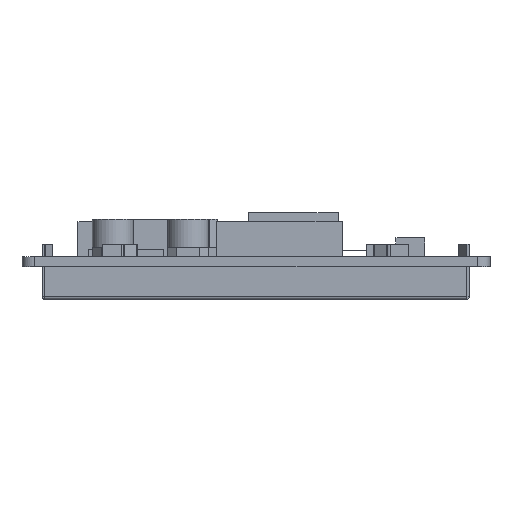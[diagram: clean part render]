
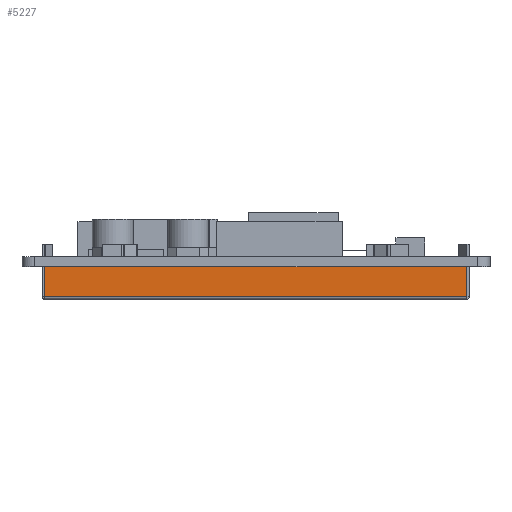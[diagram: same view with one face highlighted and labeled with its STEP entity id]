
A CAD part, left-side view. The second image highlights one B-rep face of the part: STEP entity #5227.
In plain terms, the highlighted planar face has unit normal (-1, 0, 0).
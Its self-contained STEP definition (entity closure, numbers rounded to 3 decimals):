
#5227=ADVANCED_FACE('',(#9197),#7202,.F.);
#7202=PLANE('',#36557);
#9197=FACE_OUTER_BOUND('',#11266,.T.);
#11266=EDGE_LOOP('',(#15930,#15931,#15932,#15933));
#15930=ORIENTED_EDGE('',*,*,#25213,.T.);
#15931=ORIENTED_EDGE('',*,*,#25214,.F.);
#15932=ORIENTED_EDGE('',*,*,#25215,.F.);
#15933=ORIENTED_EDGE('',*,*,#25216,.T.);
#21884=VERTEX_POINT('',#50092);
#21885=VERTEX_POINT('',#50093);
#21886=VERTEX_POINT('',#50095);
#21887=VERTEX_POINT('',#50097);
#25213=EDGE_CURVE('',#21884,#21885,#29242,.T.);
#25214=EDGE_CURVE('',#21886,#21885,#29243,.T.);
#25215=EDGE_CURVE('',#21887,#21886,#29244,.T.);
#25216=EDGE_CURVE('',#21887,#21884,#29245,.T.);
#29242=LINE('',#50091,#33265);
#29243=LINE('',#50094,#33266);
#29244=LINE('',#50096,#33267);
#29245=LINE('',#50098,#33268);
#33265=VECTOR('',#41222,1.);
#33266=VECTOR('',#41223,1.);
#33267=VECTOR('',#41224,1.);
#33268=VECTOR('',#41225,1.);
#36557=AXIS2_PLACEMENT_3D('',#50099,#41226,#41227);
#41222=DIRECTION('',(0.,1.,0.));
#41223=DIRECTION('',(0.,0.,1.));
#41224=DIRECTION('',(0.,1.,0.));
#41225=DIRECTION('',(0.,0.,1.));
#41226=DIRECTION('',(1.,0.,0.));
#41227=DIRECTION('',(0.,1.,0.));
#50091=CARTESIAN_POINT('',(67.65,-14.395,-1.6));
#50092=CARTESIAN_POINT('',(67.65,-14.395,-1.6));
#50093=CARTESIAN_POINT('',(67.65,53.005,-1.6));
#50094=CARTESIAN_POINT('',(67.65,53.005,-6.4));
#50095=CARTESIAN_POINT('',(67.65,53.005,-6.4));
#50096=CARTESIAN_POINT('',(67.65,-14.395,-6.4));
#50097=CARTESIAN_POINT('',(67.65,-14.395,-6.4));
#50098=CARTESIAN_POINT('',(67.65,-14.395,-6.4));
#50099=CARTESIAN_POINT('',(67.65,-14.395,-6.4));
